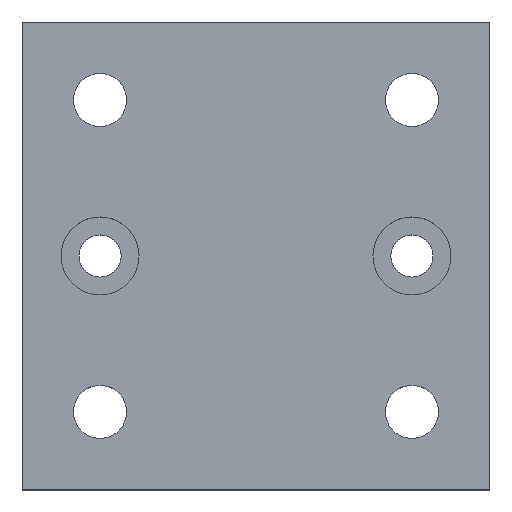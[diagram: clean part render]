
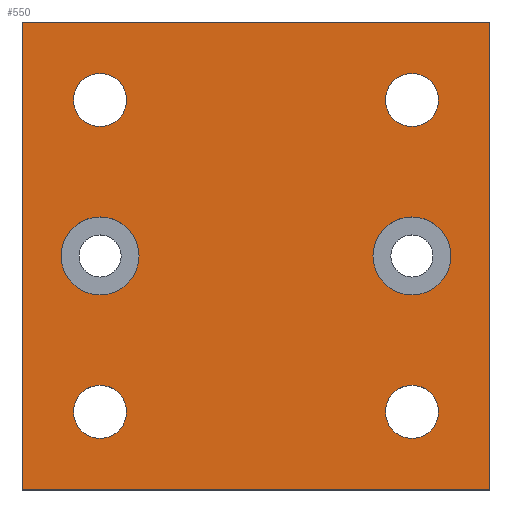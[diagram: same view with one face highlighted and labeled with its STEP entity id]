
A CAD part, top view. The second image highlights one B-rep face of the part: STEP entity #550.
In plain terms, the highlighted planar face has unit normal (0, 0, 1).
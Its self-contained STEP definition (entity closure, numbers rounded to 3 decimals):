
#550=ADVANCED_FACE('', (#560,#570,#580,#590,#600,#610,#620), #630, .T.);
#1200=AXIS2_PLACEMENT_3D('Ax2Pl3d', #1210, #1220, #1230);
#1440=AXIS2_PLACEMENT_3D('Ax2Pl3d', #1450, #1460, #1470);
#1520=AXIS2_PLACEMENT_3D('Ax2Pl3d', #1530, #1540, #1550);
#1640=AXIS2_PLACEMENT_3D('Ax2Pl3d', #1650, #1660, #1670);
#2280=AXIS2_PLACEMENT_3D('Ax2Pl3d', #2290, #2300, #2310);
#2360=AXIS2_PLACEMENT_3D('Ax2Pl3d', #2370, #2380, #2390);
#2400=AXIS2_PLACEMENT_3D('Ax2Pl3d', #2410, #2420, #2430);
#1210=CARTESIAN_POINT('HicPkt', (-938.911,-108.192,
372.975));
#3120=CARTESIAN_POINT('', (-938.911,-106.492,372.975))
;
#1450=CARTESIAN_POINT('HicPkt', (-938.911,-88.192,
372.975));
#3160=CARTESIAN_POINT('', (-938.911,-86.492,372.975))
;
#1530=CARTESIAN_POINT('HicPkt', (-918.911,-88.192,
372.975));
#3170=CARTESIAN_POINT('', (-918.911,-86.492,372.975))
;
#1650=CARTESIAN_POINT('HicPkt', (-918.911,-108.192,
372.975));
#3190=CARTESIAN_POINT('', (-918.911,-106.492,372.975))
;
#2290=CARTESIAN_POINT('HicPkt', (-938.911,-98.192,
372.975));
#3370=CARTESIAN_POINT('', (-938.911,-95.692,372.975))
;
#2370=CARTESIAN_POINT('HicPkt', (-943.911,-113.192,
372.975));
#3390=CARTESIAN_POINT('', (-943.911,-113.192,372.975))
;
#3400=CARTESIAN_POINT('', (-943.911,-83.192,372.975))
;
#3410=CARTESIAN_POINT('', (-943.911,-113.192,372.975))
;
#3420=CARTESIAN_POINT('', (-913.911,-113.192,372.975))
;
#3430=CARTESIAN_POINT('', (-913.911,-113.192,372.975))
;
#3440=CARTESIAN_POINT('', (-913.911,-83.192,372.975))
;
#3450=CARTESIAN_POINT('', (-913.911,-83.192,372.975))
;
#3460=CARTESIAN_POINT('', (-943.911,-83.192,372.975))
;
#2410=CARTESIAN_POINT('HicPkt', (-918.911,-98.192,
372.975));
#3470=CARTESIAN_POINT('', (-918.911,-95.692,372.975))
;
#3560=CIRCLE('Circle', #1200, 1.7);
#3600=CIRCLE('Circle', #1440, 1.7);
#3610=CIRCLE('Circle', #1520, 1.7);
#3630=CIRCLE('Circle', #1640, 1.7);
#3730=CIRCLE('Circle', #2280, 2.5);
#3750=CIRCLE('Circle', #2400, 2.5);
#1220=DIRECTION('Axis', (0.,0.,1.));
#1230=DIRECTION('RefDirection', (1.,0.,0.));
#1460=DIRECTION('Axis', (0.,0.,1.));
#1470=DIRECTION('RefDirection', (1.,0.,0.));
#1540=DIRECTION('Axis', (0.,0.,1.));
#1550=DIRECTION('RefDirection', (1.,0.,0.));
#1660=DIRECTION('Axis', (0.,0.,1.));
#1670=DIRECTION('RefDirection', (1.,0.,0.));
#2300=DIRECTION('Axis', (0.,0.,1.));
#2310=DIRECTION('RefDirection', (1.,0.,0.));
#2380=DIRECTION('Axis', (0.,0.,1.));
#2390=DIRECTION('RefDirection', (1.,0.,0.));
#5200=DIRECTION('', (0.,-1.,0.));
#5210=DIRECTION('', (1.,0.,0.));
#5220=DIRECTION('', (0.,1.,0.));
#5230=DIRECTION('', (-1.,0.,0.));
#2420=DIRECTION('Axis', (0.,0.,1.));
#2430=DIRECTION('RefDirection', (1.,0.,0.));
#5300=EDGE_CURVE('', #5310, #5310, #3560, .T.);
#5380=EDGE_CURVE('', #5390, #5390, #3600, .T.);
#5400=EDGE_CURVE('', #5410, #5410, #3610, .T.);
#5440=EDGE_CURVE('', #5450, #5450, #3630, .T.);
#5760=EDGE_CURVE('', #5770, #5770, #3730, .T.);
#5800=EDGE_CURVE('', #5810, #5820, #5830, .T.);
#5840=EDGE_CURVE('', #5820, #5850, #5860, .T.);
#5870=EDGE_CURVE('', #5850, #5880, #5890, .T.);
#5900=EDGE_CURVE('', #5880, #5810, #5910, .T.);
#5920=EDGE_CURVE('', #5930, #5930, #3750, .T.);
#6650=EDGE_LOOP('Edge_loop', (#6660,#6670,#6680,#6690));
#6700=EDGE_LOOP('Edge_loop', (#6710));
#6720=EDGE_LOOP('Edge_loop', (#6730));
#6740=EDGE_LOOP('Edge_loop', (#6750));
#6760=EDGE_LOOP('Edge_loop', (#6770));
#6780=EDGE_LOOP('Edge_loop', (#6790));
#6800=EDGE_LOOP('Edge_loop', (#6810));
#570=FACE_BOUND('', #6700, .T.);
#580=FACE_BOUND('', #6720, .T.);
#590=FACE_BOUND('', #6740, .T.);
#600=FACE_BOUND('', #6760, .T.);
#610=FACE_BOUND('', #6780, .T.);
#620=FACE_BOUND('', #6800, .T.);
#560=FACE_OUTER_BOUND('Face_outer_bound', #6650, .T.);
#5830=LINE('Line', #3390, #8080);
#5860=LINE('Line', #3420, #8090);
#5890=LINE('Line', #3440, #8100);
#5910=LINE('Line', #3460, #8110);
#6660=ORIENTED_EDGE('', *, *, #5800, .T.);
#6670=ORIENTED_EDGE('', *, *, #5840, .T.);
#6680=ORIENTED_EDGE('', *, *, #5870, .T.);
#6690=ORIENTED_EDGE('', *, *, #5900, .T.);
#6710=ORIENTED_EDGE('', *, *, #5760, .F.);
#6730=ORIENTED_EDGE('', *, *, #5920, .F.);
#6750=ORIENTED_EDGE('', *, *, #5300, .F.);
#6770=ORIENTED_EDGE('', *, *, #5380, .F.);
#6790=ORIENTED_EDGE('', *, *, #5400, .F.);
#6810=ORIENTED_EDGE('', *, *, #5440, .F.);
#630=PLANE('Plane', #2360);
#8080=VECTOR('', #5200, 30.);
#8090=VECTOR('', #5210, 30.);
#8100=VECTOR('', #5220, 30.);
#8110=VECTOR('', #5230, 30.);
#5310=VERTEX_POINT('', #3120);
#5390=VERTEX_POINT('', #3160);
#5410=VERTEX_POINT('', #3170);
#5450=VERTEX_POINT('', #3190);
#5770=VERTEX_POINT('', #3370);
#5810=VERTEX_POINT('', #3400);
#5820=VERTEX_POINT('', #3410);
#5850=VERTEX_POINT('', #3430);
#5880=VERTEX_POINT('', #3450);
#5930=VERTEX_POINT('', #3470);
